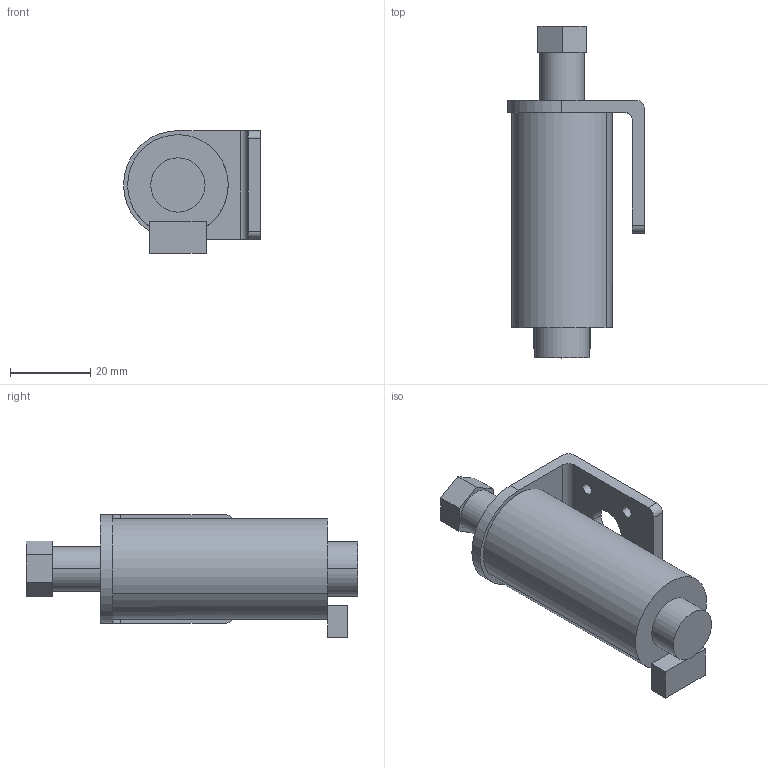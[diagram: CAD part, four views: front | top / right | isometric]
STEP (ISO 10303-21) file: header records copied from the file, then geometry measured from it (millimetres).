
FILE_DESCRIPTION(('CATIA V5 STEP Exchange'),'2;1');
FILE_NAME('D:\MENA 3D\BISMARK\MOTOR.stp','2024-11-25T07:15:11+00:00',('none'),('none'),'CATIA Version 5 Release 21 GA (IN-10)','CATIA V5 STEP AP203','none');
FILE_SCHEMA(('CONFIG_CONTROL_DESIGN'));
Length unit declared in the file: millimetre
Products named in the file (1): MOTOR
Bounding box: 34 x 82.5 x 30.5 mm (x, y, z)
Volume: 34231.3 mm3; surface area: 9642.9 mm2
Topology: 1 solids, 2 shells, 51 faces, 124 edges, 82 vertices
Faces by surface type: plane 26, cylinder 25
Entity records: 1452 total; most frequent: ORIENTED_EDGE 248, CARTESIAN_POINT 244, DIRECTION 198, EDGE_CURVE 124, AXIS2_PLACEMENT_3D 90, VERTEX_POINT 82, VECTOR 72, LINE 72
